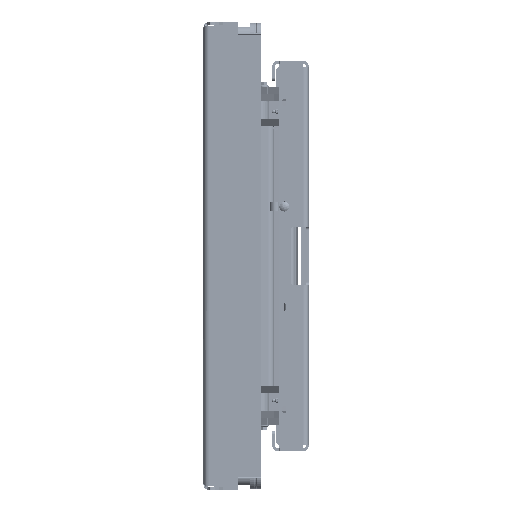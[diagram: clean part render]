
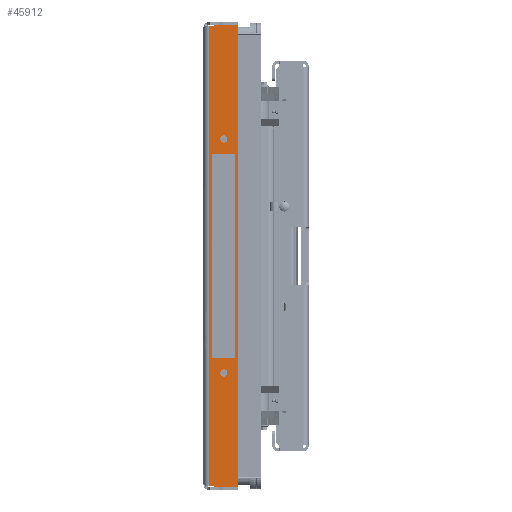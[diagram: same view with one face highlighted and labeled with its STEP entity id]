
A CAD part, left-side view. The second image highlights one B-rep face of the part: STEP entity #45912.
In plain terms, the highlighted planar face has unit normal (-1, 0, 0) as drawn and (1, 0, 0) by its records, which use the part's own axes.
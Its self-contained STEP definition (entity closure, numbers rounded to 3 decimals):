
#2237=FACE_BOUND('',#8786,.T.);
#2238=FACE_BOUND('',#8787,.T.);
#2239=FACE_BOUND('',#8788,.T.);
#2927=CIRCLE('',#49485,6.25);
#2931=CIRCLE('',#49563,6.25);
#2935=CIRCLE('',#49569,6.25);
#2958=CIRCLE('',#49604,1.);
#2960=CIRCLE('',#49608,1.);
#2961=CIRCLE('',#49609,1.);
#2962=CIRCLE('',#49610,1.);
#5904=FACE_OUTER_BOUND('',#8785,.T.);
#8785=EDGE_LOOP('',(#32968,#32969,#32970,#32971,#32972,#32973,#32974,#32975,
#32976,#32977));
#8786=EDGE_LOOP('',(#32978));
#8787=EDGE_LOOP('',(#32979));
#8788=EDGE_LOOP('',(#32980));
#12282=LINE('',#69713,#16404);
#12285=LINE('',#69719,#16407);
#12286=LINE('',#69723,#16408);
#12287=LINE('',#69725,#16409);
#12288=LINE('',#69727,#16410);
#12289=LINE('',#69731,#16411);
#16404=VECTOR('',#55999,10.);
#16407=VECTOR('',#56004,10.);
#16408=VECTOR('',#56007,10.);
#16409=VECTOR('',#56008,10.);
#16410=VECTOR('',#56009,10.);
#16411=VECTOR('',#56012,10.);
#20294=VERTEX_POINT('',#69178);
#20426=VERTEX_POINT('',#69580);
#20430=VERTEX_POINT('',#69590);
#20476=VERTEX_POINT('',#69703);
#20477=VERTEX_POINT('',#69704);
#20480=VERTEX_POINT('',#69712);
#20482=VERTEX_POINT('',#69718);
#20483=VERTEX_POINT('',#69720);
#20484=VERTEX_POINT('',#69722);
#20485=VERTEX_POINT('',#69724);
#20486=VERTEX_POINT('',#69726);
#20487=VERTEX_POINT('',#69728);
#20488=VERTEX_POINT('',#69730);
#25013=EDGE_CURVE('',#20294,#20294,#2927,.T.);
#25209=EDGE_CURVE('',#20426,#20426,#2931,.T.);
#25213=EDGE_CURVE('',#20430,#20430,#2935,.T.);
#25268=EDGE_CURVE('',#20476,#20477,#2958,.T.);
#25272=EDGE_CURVE('',#20477,#20480,#12282,.T.);
#25275=EDGE_CURVE('',#20482,#20476,#12285,.T.);
#25276=EDGE_CURVE('',#20483,#20482,#2960,.T.);
#25277=EDGE_CURVE('',#20483,#20484,#12286,.T.);
#25278=EDGE_CURVE('',#20484,#20485,#12287,.T.);
#25279=EDGE_CURVE('',#20485,#20486,#12288,.T.);
#25280=EDGE_CURVE('',#20487,#20486,#2961,.T.);
#25281=EDGE_CURVE('',#20488,#20487,#12289,.T.);
#25282=EDGE_CURVE('',#20480,#20488,#2962,.T.);
#32968=ORIENTED_EDGE('',*,*,#25268,.F.);
#32969=ORIENTED_EDGE('',*,*,#25275,.F.);
#32970=ORIENTED_EDGE('',*,*,#25276,.F.);
#32971=ORIENTED_EDGE('',*,*,#25277,.T.);
#32972=ORIENTED_EDGE('',*,*,#25278,.T.);
#32973=ORIENTED_EDGE('',*,*,#25279,.T.);
#32974=ORIENTED_EDGE('',*,*,#25280,.F.);
#32975=ORIENTED_EDGE('',*,*,#25281,.F.);
#32976=ORIENTED_EDGE('',*,*,#25282,.F.);
#32977=ORIENTED_EDGE('',*,*,#25272,.F.);
#32978=ORIENTED_EDGE('',*,*,#25013,.T.);
#32979=ORIENTED_EDGE('',*,*,#25209,.T.);
#32980=ORIENTED_EDGE('',*,*,#25213,.T.);
#44426=PLANE('',#49607);
#45912=ADVANCED_FACE('',(#5904,#2237,#2238,#2239),#44426,.F.);
#49485=AXIS2_PLACEMENT_3D('',#69179,#55529,#55530);
#49563=AXIS2_PLACEMENT_3D('',#69581,#55877,#55878);
#49569=AXIS2_PLACEMENT_3D('',#69591,#55889,#55890);
#49604=AXIS2_PLACEMENT_3D('',#69705,#55991,#55992);
#49607=AXIS2_PLACEMENT_3D('',#69717,#56002,#56003);
#49608=AXIS2_PLACEMENT_3D('',#69721,#56005,#56006);
#49609=AXIS2_PLACEMENT_3D('',#69729,#56010,#56011);
#49610=AXIS2_PLACEMENT_3D('',#69732,#56013,#56014);
#55529=DIRECTION('center_axis',(-1.,0.,0.));
#55530=DIRECTION('ref_axis',(0.,0.,-1.));
#55877=DIRECTION('center_axis',(-1.,0.,0.));
#55878=DIRECTION('ref_axis',(0.,0.,1.));
#55889=DIRECTION('center_axis',(-1.,0.,0.));
#55890=DIRECTION('ref_axis',(0.,0.,1.));
#55991=DIRECTION('center_axis',(-1.,0.,0.));
#55992=DIRECTION('ref_axis',(0.,-0.707,0.707));
#55999=DIRECTION('',(0.,1.,0.));
#56002=DIRECTION('center_axis',(-1.,0.,0.));
#56003=DIRECTION('ref_axis',(0.,0.,
1.));
#56004=DIRECTION('',(0.,0.,1.));
#56005=DIRECTION('center_axis',(-1.,0.,0.));
#56006=DIRECTION('ref_axis',(0.,-1.,-0.029));
#56007=DIRECTION('',(0.,0.057,-0.998));
#56008=DIRECTION('',(0.,1.,0.));
#56009=DIRECTION('',(0.,0.057,0.998));
#56010=DIRECTION('center_axis',(-1.,0.,0.));
#56011=DIRECTION('ref_axis',(0.,1.,-0.029));
#56012=DIRECTION('',(0.,0.,-1.));
#56013=DIRECTION('center_axis',(-1.,0.,0.));
#56014=DIRECTION('ref_axis',(0.,0.707,0.707));
#69178=CARTESIAN_POINT('',(675.,0.,36.25));
#69179=CARTESIAN_POINT('Origin',(675.,0.,30.));
#69580=CARTESIAN_POINT('',(675.,200.,28.75));
#69581=CARTESIAN_POINT('Origin',(675.,200.,35.));
#69590=CARTESIAN_POINT('',(675.,-200.,28.75));
#69591=CARTESIAN_POINT('Origin',(675.,-200.,35.));
#69703=CARTESIAN_POINT('',(675.,-394.5,59.));
#69704=CARTESIAN_POINT('',(675.,-393.5,60.));
#69705=CARTESIAN_POINT('Origin',(675.,-393.5,59.));
#69712=CARTESIAN_POINT('',(675.,393.5,60.));
#69713=CARTESIAN_POINT('',(675.,-394.5,60.));
#69717=CARTESIAN_POINT('Origin',(675.,0.,30.027));
#69718=CARTESIAN_POINT('',(675.,-394.5,24.618));
#69719=CARTESIAN_POINT('',(675.,-394.5,10.));
#69720=CARTESIAN_POINT('',(675.,-394.498,24.561));
#69721=CARTESIAN_POINT('Origin',(675.,-393.5,24.618));
#69722=CARTESIAN_POINT('',(675.,-393.666,10.));
#69723=CARTESIAN_POINT('',(675.,-394.013,16.065));
#69724=CARTESIAN_POINT('',(675.,393.666,10.));
#69725=CARTESIAN_POINT('',(675.,0.,10.));
#69726=CARTESIAN_POINT('',(675.,394.498,24.561));
#69727=CARTESIAN_POINT('',(675.,394.013,16.065));
#69728=CARTESIAN_POINT('',(675.,394.5,24.618));
#69729=CARTESIAN_POINT('Origin',(675.,393.5,24.618));
#69730=CARTESIAN_POINT('',(675.,394.5,59.));
#69731=CARTESIAN_POINT('',(675.,394.5,10.));
#69732=CARTESIAN_POINT('Origin',(675.,393.5,59.));
